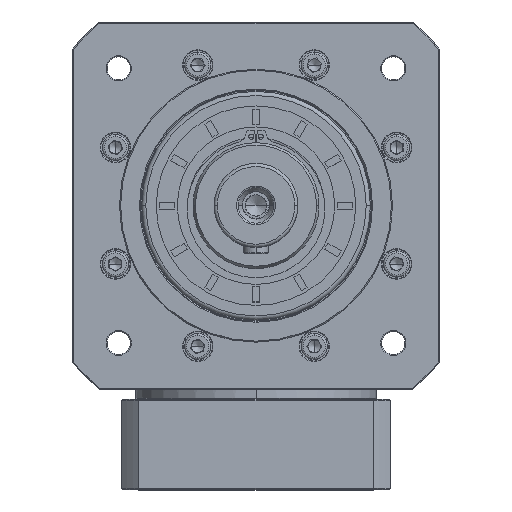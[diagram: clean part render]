
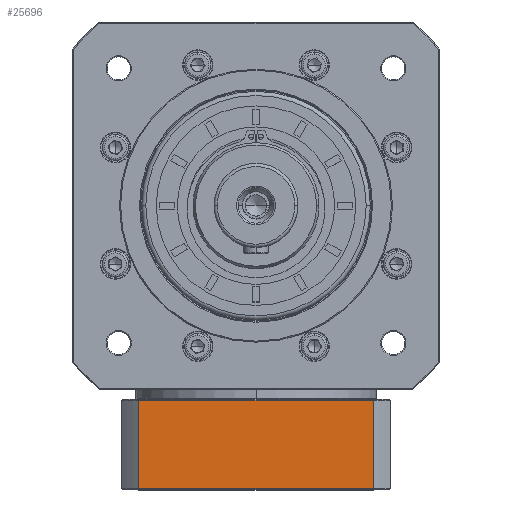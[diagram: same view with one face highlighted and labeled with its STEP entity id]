
A CAD part, top view. The second image highlights one B-rep face of the part: STEP entity #25696.
In plain terms, the highlighted planar face has unit normal (0, 0, 1).
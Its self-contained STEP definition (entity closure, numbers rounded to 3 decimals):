
#872 = CARTESIAN_POINT ( 'NONE',  ( -141.689, 118.709, 68.562 ) ) ;
#3964 = CARTESIAN_POINT ( 'NONE',  ( -253.564, -176.705, 68.562 ) ) ;
#5208 = VECTOR ( 'NONE', #138101, 1000. ) ;
#20475 = CARTESIAN_POINT ( 'NONE',  ( -141.689, -176.205, 68.562 ) ) ;
#25696 = ADVANCED_FACE ( 'NONE', ( #60008 ), #99502, .F. ) ;
#40060 = CARTESIAN_POINT ( 'NONE',  ( -253.564, -176.205, 68.562 ) ) ;
#43743 = ORIENTED_EDGE ( 'NONE', *, *, #101036, .F. ) ;
#48336 = VECTOR ( 'NONE', #135654, 1000. ) ;
#50447 = DIRECTION ( 'NONE',  ( 0., 0., -1. ) ) ;
#60008 = FACE_OUTER_BOUND ( 'NONE', #60604, .T. ) ;
#60604 = EDGE_LOOP ( 'NONE', ( #106923, #92883, #43743, #125974 ) ) ;
#62227 = VECTOR ( 'NONE', #65152, 1000. ) ;
#65152 = DIRECTION ( 'NONE',  ( 1., 0., 0. ) ) ;
#69758 = LINE ( 'NONE', #75207, #48336 ) ;
#73647 = CARTESIAN_POINT ( 'NONE',  ( -141.689, -134.205, 68.562 ) ) ;
#73990 = LINE ( 'NONE', #76067, #62227 ) ;
#74488 = CARTESIAN_POINT ( 'NONE',  ( -261.626, -176.705, 68.562 ) ) ;
#75207 = CARTESIAN_POINT ( 'NONE',  ( -261.626, -176.205, 68.562 ) ) ;
#76067 = CARTESIAN_POINT ( 'NONE',  ( -261.626, -134.205, 68.562 ) ) ;
#76646 = VECTOR ( 'NONE', #116624, 1000. ) ;
#76861 = VERTEX_POINT ( 'NONE', #20475 ) ;
#78532 = CARTESIAN_POINT ( 'NONE',  ( -253.564, -134.205, 68.562 ) ) ;
#79253 = LINE ( 'NONE', #872, #5208 ) ;
#80599 = EDGE_CURVE ( 'NONE', #101008, #112015, #73990, .T. ) ;
#81657 = EDGE_CURVE ( 'NONE', #76861, #113188, #69758, .T. ) ;
#86965 = DIRECTION ( 'NONE',  ( -1., 0., 0. ) ) ;
#92238 = LINE ( 'NONE', #3964, #76646 ) ;
#92883 = ORIENTED_EDGE ( 'NONE', *, *, #80599, .F. ) ;
#99502 = PLANE ( 'NONE',  #100442 ) ;
#100442 = AXIS2_PLACEMENT_3D ( 'NONE', #74488, #50447, #86965 ) ;
#101008 = VERTEX_POINT ( 'NONE', #78532 ) ;
#101036 = EDGE_CURVE ( 'NONE', #113188, #101008, #92238, .T. ) ;
#106923 = ORIENTED_EDGE ( 'NONE', *, *, #132661, .F. ) ;
#112015 = VERTEX_POINT ( 'NONE', #73647 ) ;
#113188 = VERTEX_POINT ( 'NONE', #40060 ) ;
#116624 = DIRECTION ( 'NONE',  ( 0., 1., 0. ) ) ;
#125974 = ORIENTED_EDGE ( 'NONE', *, *, #81657, .F. ) ;
#132661 = EDGE_CURVE ( 'NONE', #112015, #76861, #79253, .T. ) ;
#135654 = DIRECTION ( 'NONE',  ( -1., 0., 0. ) ) ;
#138101 = DIRECTION ( 'NONE',  ( 0., -1., 0. ) ) ;
